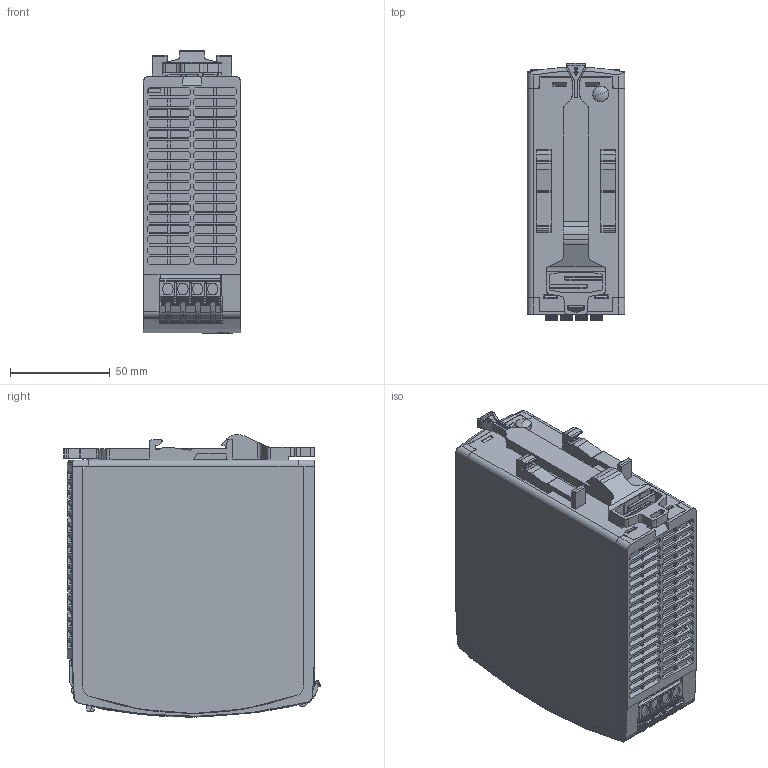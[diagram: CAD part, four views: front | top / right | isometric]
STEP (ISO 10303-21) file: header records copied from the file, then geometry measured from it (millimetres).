
FILE_DESCRIPTION (( 'STEP AP214' ), '1' );
FILE_NAME ('1043103_000.STEP', '2026-07-17T05:54:16', ( '' ), ( '' ), 'SwSTEP 2.0', 'SolidWorks 2024', '' );
FILE_SCHEMA (( 'AUTOMOTIVE_DESIGN' ));
Length unit declared in the file: millimetre
Products named in the file (14): 1018319_000_Feat_Config; 1040888_000; 1023447_000; 1043111_000; 1043174_000; 1043103_000; 1043106_000_EL-448.942.00; 1043185_000_Feat_Config; 1018394_000_BRep_Config; 1018315_000_BRep_Config; 1027101_000; 1043152_000; 1043180_000; 1018384_000_Feat_Config
Assembly tree (17 placements, depth 2):
  1043103_000
    1043180_000
    1023447_000
    1043106_000_EL-448.942.00
    1043174_000
    1043185_000_Feat_Config
    1018384_000_Feat_Config
    1018394_000_BRep_Config
    1043111_000
    1018315_000_BRep_Config
    1018319_000_Feat_Config
    1027101_000  x3
    1040888_000  x2
    1043152_000  x2
Bounding box: 49 x 128.93 x 141.63 mm (x, y, z)
Volume: 722636 mm3; surface area: 128270.4 mm2
Topology: 37 solids, 37 shells, 4572 faces, 12753 edges, 8068 vertices
Faces by surface type: plane 2570, cylinder 896, bspline 774, torus 197, sphere 99, cone 36
Entity records: 173246 total; most frequent: CARTESIAN_POINT 64456, ORIENTED_EDGE 24754, DIRECTION 18888, EDGE_CURVE 12377, VERTEX_POINT 7892, VECTOR 7460, LINE 7460, AXIS2_PLACEMENT_3D 5714
